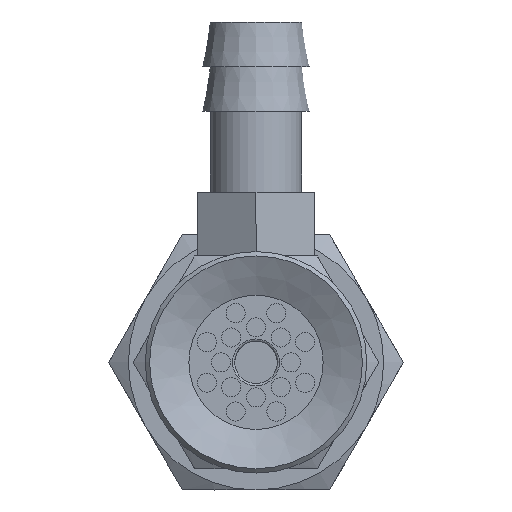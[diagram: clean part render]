
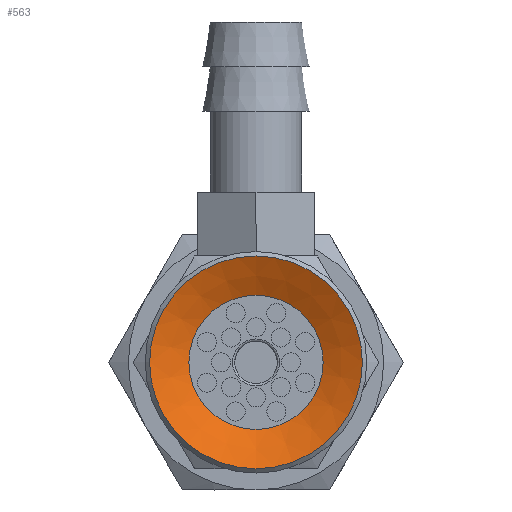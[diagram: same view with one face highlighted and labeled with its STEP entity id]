
A CAD part, front view. The second image highlights one B-rep face of the part: STEP entity #563.
In plain terms, the highlighted conical face has half-angle 64 degrees and reference radius 5 mm.
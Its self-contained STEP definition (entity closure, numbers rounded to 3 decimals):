
#563=ADVANCED_FACE('',(#897,#898),#899,.F.);
#897=FACE_BOUND('',#1310,.T.);
#898=FACE_OUTER_BOUND('',#1311,.T.);
#899=CONICAL_SURFACE('',#1312,5.0,1.117);
#1310=EDGE_LOOP('',(#2158));
#1311=EDGE_LOOP('',(#2159));
#1312=AXIS2_PLACEMENT_3D('',#2160,#2161,#2162);
#2158=ORIENTED_EDGE('',*,*,#2588,.T.);
#2159=ORIENTED_EDGE('',*,*,#2589,.F.);
#2160=CARTESIAN_POINT('',(0.0,0.,0.));
#2161=DIRECTION('',(0.0,0.,-1.0));
#2162=DIRECTION('',(0.0,1.0,0.));
#2588=EDGE_CURVE('',#2976,#2976,#2977,.T.);
#2589=EDGE_CURVE('',#2978,#2978,#2979,.T.);
#2976=VERTEX_POINT('',#3802);
#2977=CIRCLE('',#3803,3.155);
#2978=VERTEX_POINT('',#3804);
#2979=CIRCLE('',#3805,5.0);
#3802=CARTESIAN_POINT('',(0.0,-3.155,0.9));
#3803=AXIS2_PLACEMENT_3D('',#4206,#4207,#4208);
#3804=CARTESIAN_POINT('',(0.0,-5.0,0.));
#3805=AXIS2_PLACEMENT_3D('',#4209,#4210,#4211);
#4206=CARTESIAN_POINT('',(0.0,0.,0.9));
#4207=DIRECTION('',(0.0,0.,1.0));
#4208=DIRECTION('',(0.0,-1.0,0.));
#4209=CARTESIAN_POINT('',(0.0,0.,0.));
#4210=DIRECTION('',(0.0,0.,1.0));
#4211=DIRECTION('',(0.0,-1.0,0.));
